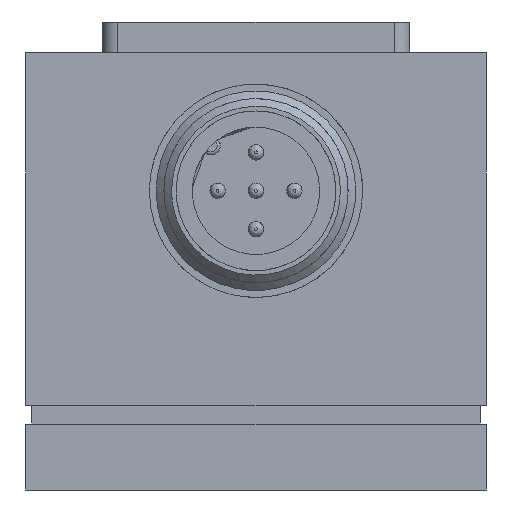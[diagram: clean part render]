
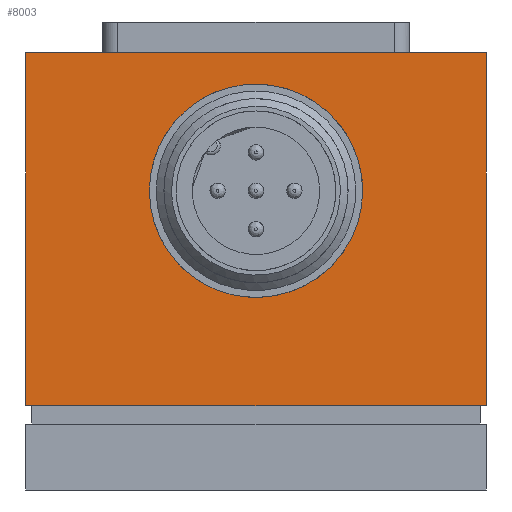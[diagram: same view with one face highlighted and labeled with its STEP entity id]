
A CAD part, front view. The second image highlights one B-rep face of the part: STEP entity #8003.
In plain terms, the highlighted free-form (B-spline) face has degree [1, 1] with [2, 2] control points.
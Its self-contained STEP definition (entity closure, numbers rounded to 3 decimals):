
#7848=CARTESIAN_POINT('V36',(30.0,0.,0.0));
#7849=VERTEX_POINT('V36',#7848);
#7856=CARTESIAN_POINT('V37',(30.0,0.,23.0));
#7857=VERTEX_POINT('V37',#7856);
#7863=CARTESIAN_POINT('E55',(30.0,0.,0.0));
#7864=CARTESIAN_POINT('E55',(30.0,0.,23.0));
#7865=QUASI_UNIFORM_CURVE('E55',1,(#7863,#7864),.POLYLINE_FORM.,.F.,
   .U.);
#7866=EDGE_CURVE('E55',#7849,#7857,#7865,.T.);
#7876=CARTESIAN_POINT('V38',(0.0,0.0,23.0));
#7877=VERTEX_POINT('V38',#7876);
#7883=CARTESIAN_POINT('E56',(30.0,0.,23.0));
#7884=CARTESIAN_POINT('E56',(0.0,0.0,23.0));
#7885=B_SPLINE_CURVE_WITH_KNOTS('E56',1,(#7883,#7884),
   .POLYLINE_FORM.,.F.,.U.,(2,2),(0.0,1.304),
   .UNSPECIFIED.);
#7886=EDGE_CURVE('E56',#7857,#7877,#7885,.T.);
#7932=CARTESIAN_POINT('V35',(0.0,0.0,0.0));
#7933=VERTEX_POINT('V35',#7932);
#7939=CARTESIAN_POINT('E57',(0.0,0.0,23.0));
#7940=CARTESIAN_POINT('E57',(0.0,0.0,0.0));
#7941=QUASI_UNIFORM_CURVE('E57',1,(#7939,#7940),.POLYLINE_FORM.,.F.,
   .U.);
#7942=EDGE_CURVE('E57',#7877,#7933,#7941,.T.);
#7954=CARTESIAN_POINT('E54',(0.0,0.0,0.0));
#7955=CARTESIAN_POINT('E54',(30.0,0.,0.0));
#7956=B_SPLINE_CURVE_WITH_KNOTS('E54',1,(#7954,#7955),
   .POLYLINE_FORM.,.F.,.U.,(2,2),(0.0,1.304),
   .UNSPECIFIED.);
#7957=EDGE_CURVE('E54',#7933,#7849,#7956,.T.);
#7971=CARTESIAN_POINT('F31',(0.0,0.0,0.0));
#7972=CARTESIAN_POINT('F31',(30.0,0.,0.0));
#7973=CARTESIAN_POINT('F31',(0.0,0.0,23.0));
#7974=CARTESIAN_POINT('F31',(30.0,0.,23.0));
#7975=B_SPLINE_SURFACE_WITH_KNOTS('F31',1,1,((#7971,#7973),(#7972,
   #7974)),.PLANE_SURF.,.F.,.F.,.U.,(2,2),(2,2),(0.0,
   1.304),(0.0,1.0),.UNSPECIFIED.);
#7976=ORIENTED_EDGE('E54',*,*,#7957,.T.);
#7977=ORIENTED_EDGE('F94',*,*,#7866,.T.);
#7978=ORIENTED_EDGE('E56',*,*,#7886,.T.);
#7979=ORIENTED_EDGE('E57',*,*,#7942,.T.);
#7980=EDGE_LOOP('F31',(#7976,#7977,#7978,#7979));
#7981=FACE_OUTER_BOUND('F31',#7980,.T.);
#7982=CARTESIAN_POINT('V39',(21.95,0.,14.0)
   );
#7983=VERTEX_POINT('V39',#7982);
#7984=CARTESIAN_POINT('E58',(21.95,0.,14.0)
   );
#7985=CARTESIAN_POINT('E58',(21.95,0.,
   1.962));
#7986=CARTESIAN_POINT('E58',(11.525,0.,
   7.981));
#7987=CARTESIAN_POINT('E58',(1.1,0.,14.0)
   );
#7988=CARTESIAN_POINT('E58',(11.525,0.,
   20.019));
#7989=CARTESIAN_POINT('E58',(21.95,0.,
   26.038));
#7990=CARTESIAN_POINT('E58',(21.95,0.,14.0)
   );
#7998=(BOUNDED_CURVE()B_SPLINE_CURVE(2,(#7984,#7985,#7986,#7987,
   #7988,#7989,#7990),.CIRCULAR_ARC.,.T.,.U.)
   B_SPLINE_CURVE_WITH_KNOTS((3,2,2,3),(0.0,5.872,
   11.744,17.616),.UNSPECIFIED.)CURVE()
   GEOMETRIC_REPRESENTATION_ITEM()RATIONAL_B_SPLINE_CURVE((1.0,
   0.5,1.0,0.5,1.0,0.5,1.0)
   )REPRESENTATION_ITEM('E58'));
#7999=EDGE_CURVE('E58',#7983,#7983,#7998,.T.);
#8000=ORIENTED_EDGE('E58',*,*,#7999,.T.);
#8001=EDGE_LOOP('F31',(#8000));
#8002=FACE_BOUND('F31',#8001,.T.);
#8003=ADVANCED_FACE('F31',(#7981,#8002),#7975,.T.);
